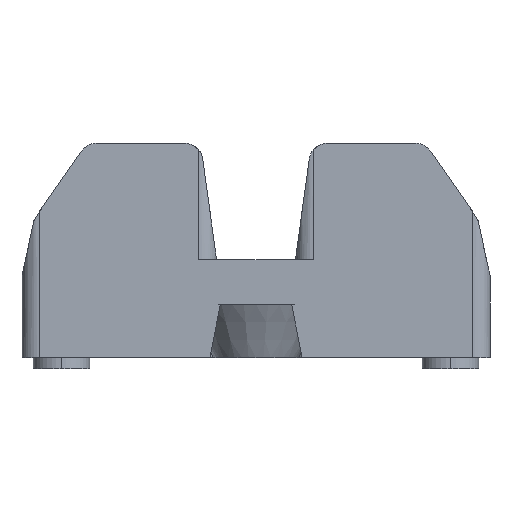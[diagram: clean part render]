
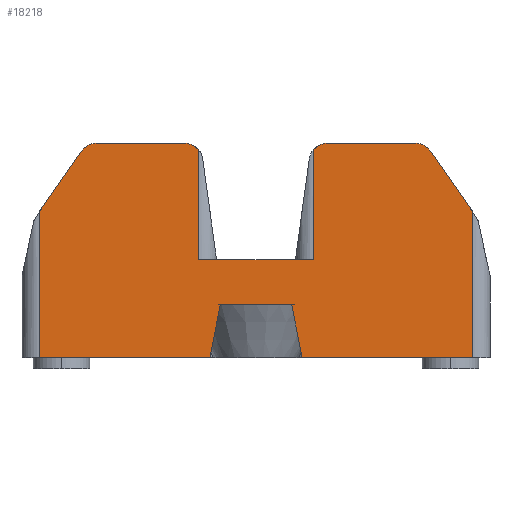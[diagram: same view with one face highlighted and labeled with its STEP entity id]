
A CAD part, left-side view. The second image highlights one B-rep face of the part: STEP entity #18218.
In plain terms, the highlighted planar face has unit normal (-1, 0, 0).
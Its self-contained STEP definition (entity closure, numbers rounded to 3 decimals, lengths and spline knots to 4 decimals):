
#1434=CARTESIAN_POINT('',(0.0298,1.8622,
-0.043));
#1481=DIRECTION('',(0.,1.,0.));
#1482=VECTOR('',#1481,0.5634);
#1483=CARTESIAN_POINT('',(0.0298,1.9534,0.));
#1484=LINE('',#1483,#1482);
#1489=DIRECTION('',(0.,1.,0.));
#1490=VECTOR('',#1489,0.4574);
#1491=CARTESIAN_POINT('',(0.0298,1.2674,
-1.0315));
#1492=LINE('',#1491,#1490);
#1493=CARTESIAN_POINT('',(0.0298,1.7247,
-1.0315));
#1494=CARTESIAN_POINT('',(0.0298,1.7326,
-1.0676));
#1495=CARTESIAN_POINT('',(0.0298,1.7478,
-1.1408));
#1496=CARTESIAN_POINT('',(0.0298,1.7698,
-1.2537));
#1497=CARTESIAN_POINT('',(0.0298,1.784,
-1.3309));
#1498=CARTESIAN_POINT('',(0.0298,1.791,
-1.3701));
#1500=DIRECTION('',(0.,1.,0.));
#1501=VECTOR('',#1500,1.0869);
#1502=CARTESIAN_POINT('',(0.0298,1.791,
-1.3701));
#1503=LINE('',#1502,#1501);
#1504=DIRECTION('',(0.,-0.569,0.823));
#1505=VECTOR('',#1504,0.4644);
#1506=CARTESIAN_POINT('',(0.0298,2.878,
-0.433));
#1507=LINE('',#1506,#1505);
#1508=CARTESIAN_POINT('',(0.0298,2.5168,
-0.1181));
#1509=DIRECTION('',(1.,0.,0.));
#1510=DIRECTION('',(0.,0.823,0.569));
#1511=AXIS2_PLACEMENT_3D('',#1508,#1509,#1510);
#1513=CARTESIAN_POINT('',(0.0298,1.9534,
-0.1181));
#1514=DIRECTION('',(1.,0.,0.));
#1515=DIRECTION('',(0.,0.,1.));
#1516=AXIS2_PLACEMENT_3D('',#1513,#1514,#1515);
#1518=DIRECTION('',(0.,0.,-1.));
#1519=VECTOR('',#1518,0.7011);
#1520=CARTESIAN_POINT('',(0.0298,1.8622,
-0.043));
#1521=LINE('',#1520,#1519);
#1522=DIRECTION('',(0.,-1.,0.));
#1523=VECTOR('',#1522,0.7323);
#1524=CARTESIAN_POINT('',(0.0298,1.8622,
-0.7441));
#1525=LINE('',#1524,#1523);
#1526=CARTESIAN_POINT('',(0.0298,1.0388,
-0.1181));
#1527=DIRECTION('',(1.,0.,0.));
#1528=DIRECTION('',(0.,0.772,0.636));
#1529=AXIS2_PLACEMENT_3D('',#1526,#1527,#1528);
#1531=CARTESIAN_POINT('',(0.0298,0.4753,
-0.1181));
#1532=DIRECTION('',(1.,0.,0.));
#1533=DIRECTION('',(0.,0.,1.));
#1534=AXIS2_PLACEMENT_3D('',#1531,#1532,#1533);
#1536=DIRECTION('',(0.,-0.569,-0.823));
#1537=VECTOR('',#1536,0.4644);
#1538=CARTESIAN_POINT('',(0.0298,0.3782,
-0.051));
#1539=LINE('',#1538,#1537);
#1540=DIRECTION('',(0.,1.,0.));
#1541=VECTOR('',#1540,1.0869);
#1542=CARTESIAN_POINT('',(0.0298,0.1142,
-1.3701));
#1543=LINE('',#1542,#1541);
#1544=CARTESIAN_POINT('',(0.0298,1.2011,
-1.3701));
#1545=CARTESIAN_POINT('',(0.0298,1.2081,
-1.3309));
#1546=CARTESIAN_POINT('',(0.0298,1.2223,
-1.2536));
#1547=CARTESIAN_POINT('',(0.0298,1.2443,
-1.1408));
#1548=CARTESIAN_POINT('',(0.0298,1.2596,
-1.0676));
#1549=CARTESIAN_POINT('',(0.0298,1.2674,
-1.0315));
#2790=DIRECTION('',(0.,0.,1.));
#2791=VECTOR('',#2790,0.9371);
#2792=CARTESIAN_POINT('',(0.0298,0.1142,
-1.3701));
#2793=LINE('',#2792,#2791);
#2868=DIRECTION('',(0.,0.,-1.));
#2869=VECTOR('',#2868,0.7011);
#2870=CARTESIAN_POINT('',(0.0298,1.1299,
-0.043));
#2871=LINE('',#2870,#2869);
#2923=DIRECTION('',(0.,1.,0.));
#2924=VECTOR('',#2923,0.5634);
#2925=CARTESIAN_POINT('',(0.0298,0.4753,0.));
#2926=LINE('',#2925,#2924);
#7891=DIRECTION('',(0.,0.,-1.));
#7892=VECTOR('',#7891,0.9371);
#7893=CARTESIAN_POINT('',(0.0298,2.878,
-0.433));
#7894=LINE('',#7893,#7892);
#12971=VERTEX_POINT('',#1434);
#12973=CARTESIAN_POINT('',(0.0298,1.8622,
-0.7441));
#12974=VERTEX_POINT('',#12973);
#13031=CARTESIAN_POINT('',(0.0298,1.1299,
-0.7441));
#13032=VERTEX_POINT('',#13031);
#13109=CARTESIAN_POINT('',(0.0298,2.878,
-1.3701));
#13110=VERTEX_POINT('',#13109);
#13111=CARTESIAN_POINT('',(0.0298,1.791,
-1.3701));
#13112=VERTEX_POINT('',#13111);
#13125=CARTESIAN_POINT('',(0.0298,0.1142,
-1.3701));
#13126=CARTESIAN_POINT('',(0.0298,1.2011,
-1.3701));
#13127=VERTEX_POINT('',#13125);
#13128=VERTEX_POINT('',#13126);
#13156=CARTESIAN_POINT('',(0.0298,1.2674,
-1.0315));
#13157=VERTEX_POINT('',#13156);
#13161=CARTESIAN_POINT('',(0.0298,1.7247,
-1.0315));
#13162=VERTEX_POINT('',#13161);
#13167=CARTESIAN_POINT('',(0.0298,2.878,
-0.433));
#13168=CARTESIAN_POINT('',(0.0298,2.614,
-0.051));
#13169=VERTEX_POINT('',#13167);
#13170=VERTEX_POINT('',#13168);
#13171=CARTESIAN_POINT('',(0.0298,2.5168,0.));
#13172=VERTEX_POINT('',#13171);
#13173=CARTESIAN_POINT('',(0.0298,1.9534,0.));
#13174=VERTEX_POINT('',#13173);
#13175=CARTESIAN_POINT('',(0.0298,1.1299,
-0.043));
#13176=CARTESIAN_POINT('',(0.0298,1.0388,0.));
#13177=VERTEX_POINT('',#13175);
#13178=VERTEX_POINT('',#13176);
#13179=CARTESIAN_POINT('',(0.0298,0.4753,0.));
#13180=CARTESIAN_POINT('',(0.0298,0.3782,
-0.051));
#13181=VERTEX_POINT('',#13179);
#13182=VERTEX_POINT('',#13180);
#13183=CARTESIAN_POINT('',(0.0298,0.1142,
-0.433));
#13184=VERTEX_POINT('',#13183);
#18179=CARTESIAN_POINT('',(0.0298,1.4961,
-0.685));
#18180=DIRECTION('',(1.,0.,0.));
#18181=DIRECTION('',(0.,-1.,0.));
#18182=AXIS2_PLACEMENT_3D('',#18179,#18180,#18181);
#18183=PLANE('',#18182);
#18185=ORIENTED_EDGE('',*,*,#18184,.T.);
#18187=ORIENTED_EDGE('',*,*,#18186,.T.);
#18189=ORIENTED_EDGE('',*,*,#18188,.T.);
#18191=ORIENTED_EDGE('',*,*,#18190,.F.);
#18193=ORIENTED_EDGE('',*,*,#18192,.T.);
#18195=ORIENTED_EDGE('',*,*,#18194,.T.);
#18196=ORIENTED_EDGE('',*,*,#18171,.F.);
#18197=ORIENTED_EDGE('',*,*,#18122,.T.);
#18198=ORIENTED_EDGE('',*,*,#18105,.T.);
#18199=ORIENTED_EDGE('',*,*,#18078,.T.);
#18201=ORIENTED_EDGE('',*,*,#18200,.F.);
#18203=ORIENTED_EDGE('',*,*,#18202,.T.);
#18205=ORIENTED_EDGE('',*,*,#18204,.F.);
#18207=ORIENTED_EDGE('',*,*,#18206,.T.);
#18209=ORIENTED_EDGE('',*,*,#18208,.T.);
#18211=ORIENTED_EDGE('',*,*,#18210,.F.);
#18213=ORIENTED_EDGE('',*,*,#18212,.T.);
#18215=ORIENTED_EDGE('',*,*,#18214,.T.);
#18216=EDGE_LOOP('',(#18185,#18187,#18189,#18191,#18193,#18195,#18196,#18197,
#18198,#18199,#18201,#18203,#18205,#18207,#18209,#18211,#18213,#18215));
#18217=FACE_OUTER_BOUND('',#18216,.F.);
#18218=ADVANCED_FACE('',(#18217),#18183,.F.);
#1499=B_SPLINE_CURVE_WITH_KNOTS('',3,(#1493,#1494,#1495,#1496,#1497,#1498),
.UNSPECIFIED.,.F.,.F.,(4,1,1,4),(0.,0.3333,0.6667,1.),
.UNSPECIFIED.);
#1512=CIRCLE('',#1511,0.1181);
#1517=CIRCLE('',#1516,0.1181);
#1530=CIRCLE('',#1529,0.1181);
#1535=CIRCLE('',#1534,0.1181);
#1550=B_SPLINE_CURVE_WITH_KNOTS('',3,(#1544,#1545,#1546,#1547,#1548,#1549),
.UNSPECIFIED.,.F.,.F.,(4,1,1,4),(0.,0.3333,0.6667,1.),
.UNSPECIFIED.);
#18078=EDGE_CURVE('',#12974,#13032,#1525,.T.);
#18105=EDGE_CURVE('',#12971,#12974,#1521,.T.);
#18122=EDGE_CURVE('',#13174,#12971,#1517,.T.);
#18171=EDGE_CURVE('',#13174,#13172,#1484,.T.);
#18184=EDGE_CURVE('',#13157,#13162,#1492,.T.);
#18186=EDGE_CURVE('',#13162,#13112,#1499,.T.);
#18188=EDGE_CURVE('',#13112,#13110,#1503,.T.);
#18190=EDGE_CURVE('',#13169,#13110,#7894,.T.);
#18192=EDGE_CURVE('',#13169,#13170,#1507,.T.);
#18194=EDGE_CURVE('',#13170,#13172,#1512,.T.);
#18200=EDGE_CURVE('',#13177,#13032,#2871,.T.);
#18202=EDGE_CURVE('',#13177,#13178,#1530,.T.);
#18204=EDGE_CURVE('',#13181,#13178,#2926,.T.);
#18206=EDGE_CURVE('',#13181,#13182,#1535,.T.);
#18208=EDGE_CURVE('',#13182,#13184,#1539,.T.);
#18210=EDGE_CURVE('',#13127,#13184,#2793,.T.);
#18212=EDGE_CURVE('',#13127,#13128,#1543,.T.);
#18214=EDGE_CURVE('',#13128,#13157,#1550,.T.);
